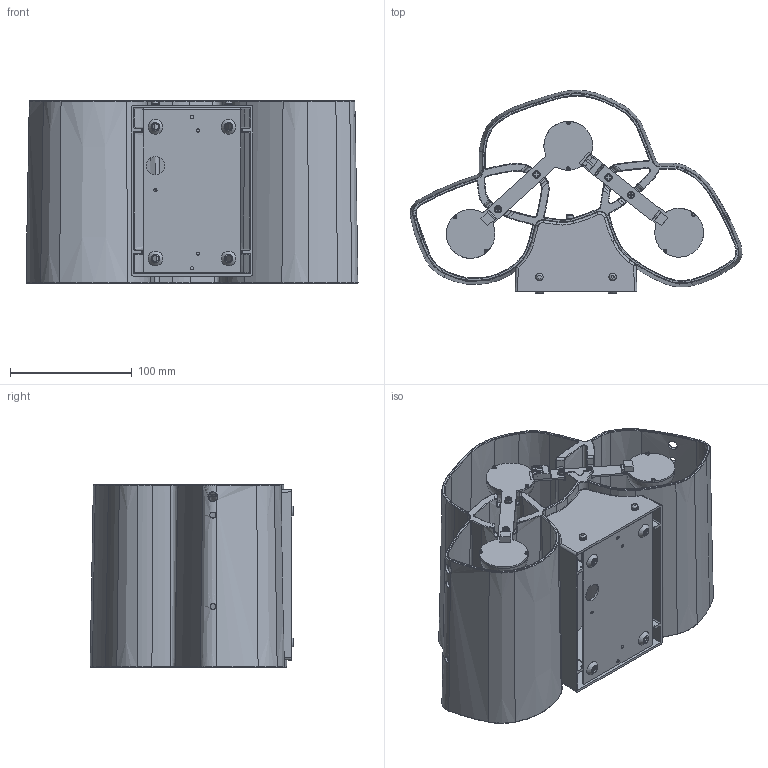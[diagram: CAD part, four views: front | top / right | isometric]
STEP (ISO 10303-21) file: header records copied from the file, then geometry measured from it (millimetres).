
FILE_DESCRIPTION(/* description */ ('Unknown'),/* implementation_level */ '2;1');
FILE_NAME(/* name */ '8688',/* time_stamp */ '2019-04-08T14:36:20+02:00',/* author */ ('Unknown'),/* organization */ ('Unknown'),/* preprocessor_version */ 'ST-DEVELOPER v16.7',/* originating_system */ 'DEX',/* authorisation */ $);
FILE_SCHEMA (('AUTOMOTIVE_DESIGN {1 0 10303 214 3 1 1}'));
Length unit declared in the file: millimetre
Products named in the file (16): 8688; 061000249358; 006000227W27R; 008000134351; 007000040W27; Resistenza R1206 Ponte 0Ohm; 001000081351; 001000069351; 151001405710; 150000143064; 210000006013; F1219-9; 063000013000; 210000061012; 061000265359; 210000095984
Assembly tree (55 placements, depth 3):
  8688
    061000249358
    006000227W27R
      008000134351
      007000040W27  x24
      Resistenza R1206 Ponte 0Ohm  x6
      001000081351
      001000069351  x2
    151001405710
    150000143064
    210000006013  x2
    F1219-9  x2
    063000013000  x4
    210000061012  x4
    061000265359  x3
    210000095984  x2
Bounding box: 272.34 x 167.05 x 150 mm (x, y, z)
Volume: 559399.8 mm3; surface area: 430759.1 mm2
Topology: 54 solids, 54 shells, 2871 faces, 7547 edges, 4845 vertices
Faces by surface type: plane 2010, cylinder 380, torus 253, cone 149, bspline 71, sphere 8
Full cylindrical faces by diameter (mm): 2 x4, 2.459 x2, 2.5 x4, 2.6 x5, 2.98 x4, 3 x12, 3.2 x2, 3.5 x2, 3.68 x2, 4 x6, 5 x8, 5.5 x2, 5.6 x4, 6 x6, 8 x3, 15 x1
Entity records: 35748 total; most frequent: CARTESIAN_POINT 7335, DIRECTION 5782, ORIENTED_EDGE 5332, EDGE_CURVE 2666, AXIS2_PLACEMENT_3D 2231, VERTEX_POINT 1693, LINE 1320, VECTOR 1320
